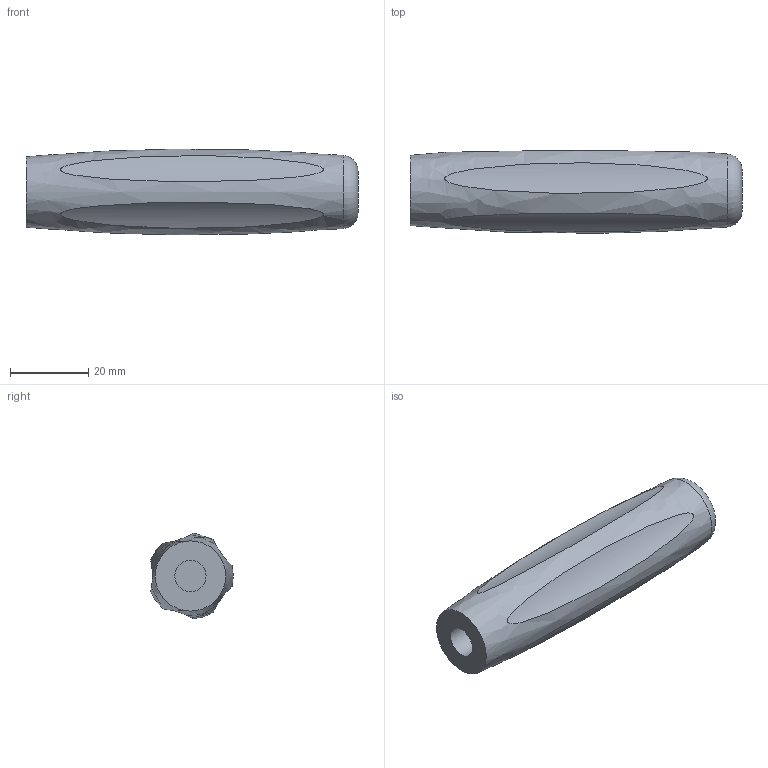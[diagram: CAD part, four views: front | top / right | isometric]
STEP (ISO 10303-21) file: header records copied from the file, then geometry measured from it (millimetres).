
FILE_DESCRIPTION( ( 'STEP AP203' ), '1' );
FILE_NAME( 'C:/Temp/Ganter_Step_05_03_2020/data/1_1/gn819/Softline- Cabinet _U_ handle GN 819-22-B8.stp', '2020-03-05T10:03:47', ( 'License CC BY-ND 4.0' ), ( 'CADENAS' ), ' ', 'PARTsolutions', ' ' );
FILE_SCHEMA( ( 'CONFIG_CONTROL_DESIGN' ) );
Length unit declared in the file: millimetre
Products named in the file (1): _Softline- Cabinet "U" handle GN 819-22-B8
Bounding box: 85 x 21.15 x 21.9 mm (x, y, z)
Volume: 24077.9 mm3; surface area: 7389.5 mm2
Topology: 1 solids, 1 shells, 11 faces, 13 edges, 10 vertices
Faces by surface type: cylinder 6, plane 3, torus 1, bspline 1
Full cylindrical faces by diameter (mm): 8 x1
Entity records: 790 total; most frequent: CARTESIAN_POINT 583, DIRECTION 32, EDGE_LOOP 20, ORIENTED_EDGE 20, AXIS2_PLACEMENT_3D 16, FACE_OUTER_BOUND 14, ADVANCED_FACE 11, EDGE_CURVE 10
